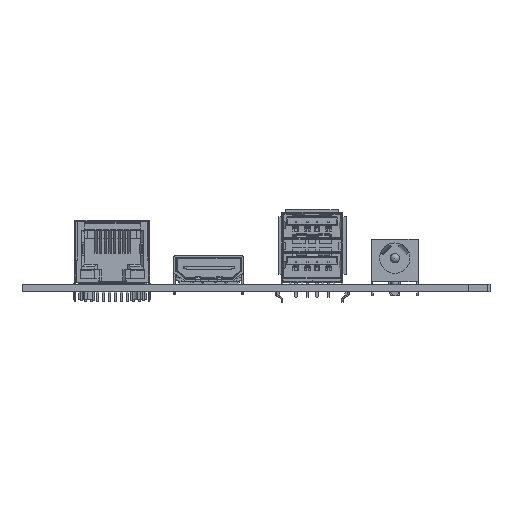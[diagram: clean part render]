
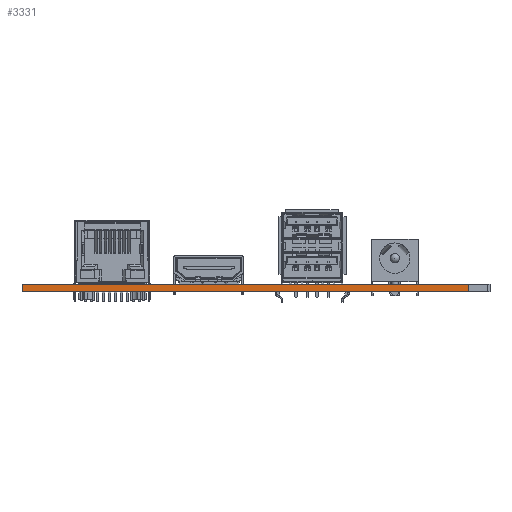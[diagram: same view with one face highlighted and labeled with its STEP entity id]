
A CAD part, left-side view. The second image highlights one B-rep face of the part: STEP entity #3331.
In plain terms, the highlighted planar face has unit normal (-1, 0, 0).
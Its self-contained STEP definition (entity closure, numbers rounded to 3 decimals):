
#204 = EDGE_CURVE('',#205,#207,#209,.T.);
#205 = VERTEX_POINT('',#206);
#206 = CARTESIAN_POINT('',(0.,4.5,0.));
#207 = VERTEX_POINT('',#208);
#208 = CARTESIAN_POINT('',(0.,4.5,1.568));
#209 = SURFACE_CURVE('',#210,(#214,#226),.PCURVE_S1.);
#210 = LINE('',#211,#212);
#211 = CARTESIAN_POINT('',(0.,4.5,0.));
#212 = VECTOR('',#213,1.);
#213 = DIRECTION('',(0.,0.,1.));
#214 = PCURVE('',#215,#220);
#215 = PLANE('',#216);
#216 = AXIS2_PLACEMENT_3D('',#217,#218,#219);
#217 = CARTESIAN_POINT('',(0.,4.5,0.));
#218 = DIRECTION('',(0.,1.,0.));
#219 = DIRECTION('',(1.,0.,0.));
#220 = DEFINITIONAL_REPRESENTATION('',(#221),#225);
#221 = LINE('',#222,#223);
#222 = CARTESIAN_POINT('',(0.,0.));
#223 = VECTOR('',#224,1.);
#224 = DIRECTION('',(0.,-1.));
#225 = ( GEOMETRIC_REPRESENTATION_CONTEXT(2) 
PARAMETRIC_REPRESENTATION_CONTEXT() REPRESENTATION_CONTEXT('2D SPACE',''
  ) );
#226 = PCURVE('',#227,#232);
#227 = PLANE('',#228);
#228 = AXIS2_PLACEMENT_3D('',#229,#230,#231);
#229 = CARTESIAN_POINT('',(0.,100.,0.));
#230 = DIRECTION('',(1.,0.,0.));
#231 = DIRECTION('',(0.,-1.,0.));
#232 = DEFINITIONAL_REPRESENTATION('',(#233),#237);
#233 = LINE('',#234,#235);
#234 = CARTESIAN_POINT('',(95.5,0.));
#235 = VECTOR('',#236,1.);
#236 = DIRECTION('',(0.,-1.));
#237 = ( GEOMETRIC_REPRESENTATION_CONTEXT(2) 
PARAMETRIC_REPRESENTATION_CONTEXT() REPRESENTATION_CONTEXT('2D SPACE',''
  ) );
#255 = PLANE('',#256);
#256 = AXIS2_PLACEMENT_3D('',#257,#258,#259);
#257 = CARTESIAN_POINT('',(0.,4.5,1.568));
#258 = DIRECTION('',(0.,0.,-1.));
#259 = DIRECTION('',(-1.,0.,0.));
#309 = PLANE('',#310);
#310 = AXIS2_PLACEMENT_3D('',#311,#312,#313);
#311 = CARTESIAN_POINT('',(0.,4.5,0.));
#312 = DIRECTION('',(0.,0.,-1.));
#313 = DIRECTION('',(-1.,0.,0.));
#3200 = PLANE('',#3201);
#3201 = AXIS2_PLACEMENT_3D('',#3202,#3203,#3204);
#3202 = CARTESIAN_POINT('',(28.9,100.,0.));
#3203 = DIRECTION('',(0.,-1.,0.));
#3204 = DIRECTION('',(-1.,0.,0.));
#3266 = VERTEX_POINT('',#3267);
#3267 = CARTESIAN_POINT('',(0.,100.,1.568));
#3288 = EDGE_CURVE('',#3289,#3266,#3291,.T.);
#3289 = VERTEX_POINT('',#3290);
#3290 = CARTESIAN_POINT('',(0.,100.,0.));
#3291 = SURFACE_CURVE('',#3292,(#3296,#3303),.PCURVE_S1.);
#3292 = LINE('',#3293,#3294);
#3293 = CARTESIAN_POINT('',(0.,100.,0.));
#3294 = VECTOR('',#3295,1.);
#3295 = DIRECTION('',(0.,0.,1.));
#3296 = PCURVE('',#3200,#3297);
#3297 = DEFINITIONAL_REPRESENTATION('',(#3298),#3302);
#3298 = LINE('',#3299,#3300);
#3299 = CARTESIAN_POINT('',(28.9,0.));
#3300 = VECTOR('',#3301,1.);
#3301 = DIRECTION('',(0.,-1.));
#3302 = ( GEOMETRIC_REPRESENTATION_CONTEXT(2) 
PARAMETRIC_REPRESENTATION_CONTEXT() REPRESENTATION_CONTEXT('2D SPACE',''
  ) );
#3303 = PCURVE('',#227,#3304);
#3304 = DEFINITIONAL_REPRESENTATION('',(#3305),#3309);
#3305 = LINE('',#3306,#3307);
#3306 = CARTESIAN_POINT('',(0.,0.));
#3307 = VECTOR('',#3308,1.);
#3308 = DIRECTION('',(0.,-1.));
#3309 = ( GEOMETRIC_REPRESENTATION_CONTEXT(2) 
PARAMETRIC_REPRESENTATION_CONTEXT() REPRESENTATION_CONTEXT('2D SPACE',''
  ) );
#3331 = ADVANCED_FACE('',(#3332),#227,.F.);
#3332 = FACE_BOUND('',#3333,.F.);
#3333 = EDGE_LOOP('',(#3334,#3335,#3356,#3357));
#3334 = ORIENTED_EDGE('',*,*,#3288,.T.);
#3335 = ORIENTED_EDGE('',*,*,#3336,.T.);
#3336 = EDGE_CURVE('',#3266,#207,#3337,.T.);
#3337 = SURFACE_CURVE('',#3338,(#3342,#3349),.PCURVE_S1.);
#3338 = LINE('',#3339,#3340);
#3339 = CARTESIAN_POINT('',(0.,100.,1.568));
#3340 = VECTOR('',#3341,1.);
#3341 = DIRECTION('',(0.,-1.,0.));
#3342 = PCURVE('',#227,#3343);
#3343 = DEFINITIONAL_REPRESENTATION('',(#3344),#3348);
#3344 = LINE('',#3345,#3346);
#3345 = CARTESIAN_POINT('',(0.,-1.568));
#3346 = VECTOR('',#3347,1.);
#3347 = DIRECTION('',(1.,0.));
#3348 = ( GEOMETRIC_REPRESENTATION_CONTEXT(2) 
PARAMETRIC_REPRESENTATION_CONTEXT() REPRESENTATION_CONTEXT('2D SPACE',''
  ) );
#3349 = PCURVE('',#255,#3350);
#3350 = DEFINITIONAL_REPRESENTATION('',(#3351),#3355);
#3351 = LINE('',#3352,#3353);
#3352 = CARTESIAN_POINT('',(0.,95.5));
#3353 = VECTOR('',#3354,1.);
#3354 = DIRECTION('',(0.,-1.));
#3355 = ( GEOMETRIC_REPRESENTATION_CONTEXT(2) 
PARAMETRIC_REPRESENTATION_CONTEXT() REPRESENTATION_CONTEXT('2D SPACE',''
  ) );
#3356 = ORIENTED_EDGE('',*,*,#204,.F.);
#3357 = ORIENTED_EDGE('',*,*,#3358,.F.);
#3358 = EDGE_CURVE('',#3289,#205,#3359,.T.);
#3359 = SURFACE_CURVE('',#3360,(#3364,#3371),.PCURVE_S1.);
#3360 = LINE('',#3361,#3362);
#3361 = CARTESIAN_POINT('',(0.,100.,0.));
#3362 = VECTOR('',#3363,1.);
#3363 = DIRECTION('',(0.,-1.,0.));
#3364 = PCURVE('',#227,#3365);
#3365 = DEFINITIONAL_REPRESENTATION('',(#3366),#3370);
#3366 = LINE('',#3367,#3368);
#3367 = CARTESIAN_POINT('',(0.,0.));
#3368 = VECTOR('',#3369,1.);
#3369 = DIRECTION('',(1.,0.));
#3370 = ( GEOMETRIC_REPRESENTATION_CONTEXT(2) 
PARAMETRIC_REPRESENTATION_CONTEXT() REPRESENTATION_CONTEXT('2D SPACE',''
  ) );
#3371 = PCURVE('',#309,#3372);
#3372 = DEFINITIONAL_REPRESENTATION('',(#3373),#3377);
#3373 = LINE('',#3374,#3375);
#3374 = CARTESIAN_POINT('',(0.,95.5));
#3375 = VECTOR('',#3376,1.);
#3376 = DIRECTION('',(0.,-1.));
#3377 = ( GEOMETRIC_REPRESENTATION_CONTEXT(2) 
PARAMETRIC_REPRESENTATION_CONTEXT() REPRESENTATION_CONTEXT('2D SPACE',''
  ) );
